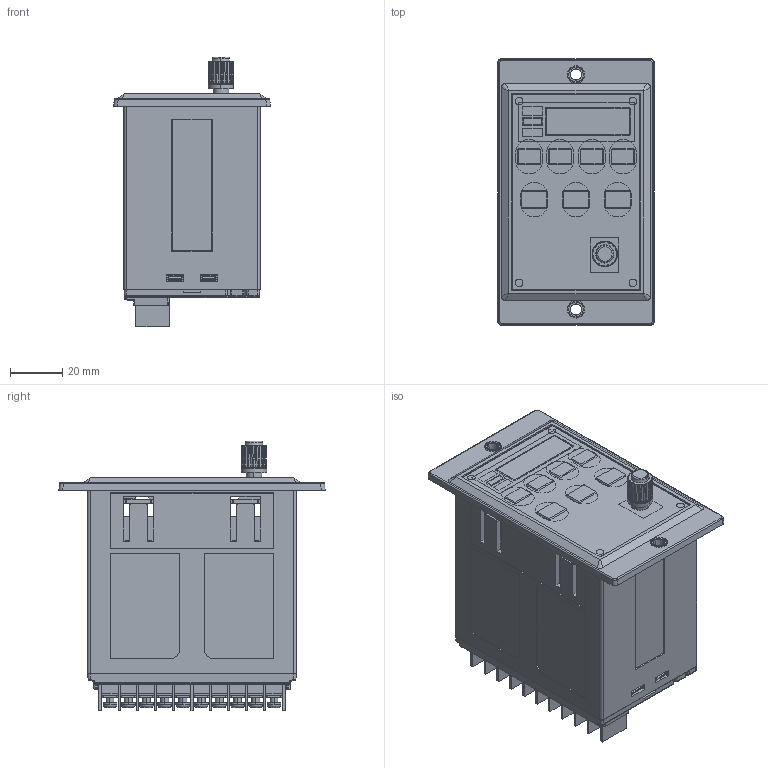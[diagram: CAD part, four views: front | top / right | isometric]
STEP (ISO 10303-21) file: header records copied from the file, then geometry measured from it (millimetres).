
FILE_DESCRIPTION (( 'STEP AP214' ), '1' );
FILE_NAME ('A21(薯撻杅珆覃厒ん).STEP', '2021-07-15T01:52:07', ( '' ), ( '' ), 'SwSTEP 2.0', 'SolidWorks 2019', '' );
FILE_SCHEMA (( 'AUTOMOTIVE_DESIGN' ));
Length unit declared in the file: millimetre
Products named in the file (1): A21(薯撻杅珆覃厒ん)
Bounding box: 60.2 x 102.3 x 103.67 mm (x, y, z)
Volume: 87028.2 mm3; surface area: 88622 mm2
Topology: 3 solids, 14 shells, 2449 faces, 6661 edges, 4313 vertices
Faces by surface type: plane 1369, cylinder 490, cone 316, bspline 202, torus 42, sphere 30
Entity records: 84642 total; most frequent: CARTESIAN_POINT 25298, ORIENTED_EDGE 13238, DIRECTION 11120, EDGE_CURVE 6619, VERTEX_POINT 4313, VECTOR 3862, LINE 3862, AXIS2_PLACEMENT_3D 3629
